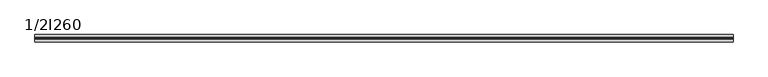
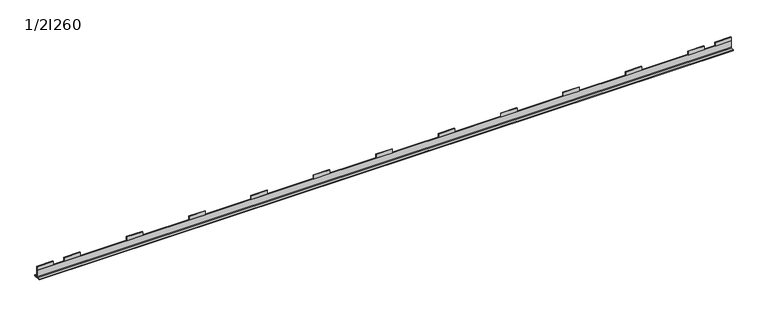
"""IFC4 building model written with IfcOpenShell, lengths in millimetres: beam geometry, Wzmocnienie do belek - dokładny podział : 1/2I260."""

from ifc_helpers import new_model, si_unit, point, frame, frame_2d, origin, place, context, project, spatial, polyline, circle_curve, trimmed, segment, composite_curve, outline, extrude, source, transform, mapped, element, save


def beam_1_2i260_edd09e0a(model_context):
    return source(origin(), model_context, "Body", "SweptSolid", [
        extrude(outline(polyline([(9141.0, -5.5), (9141.0, 5.5), (9391.0, 5.5), (9391.0, -5.5), (9141.0, -5.5)])), frame((0.0, 0.0, -60.0), z_axis=(0.0, 0.0, 1.0), x_axis=(1.0, 0.0, 0.0)), (0.0, 0.0, 1.0), 60.0),
        extrude(outline(polyline([(8172.0, -5.5), (8172.0, 5.5), (8422.0, 5.5), (8422.0, -5.5), (8172.0, -5.5)])), frame((0.0, 0.0, -60.0), z_axis=(0.0, 0.0, 1.0), x_axis=(1.0, 0.0, 0.0)), (0.0, 0.0, 1.0), 60.0),
        extrude(outline(polyline([(7203.0, -5.5), (7203.0, 5.5), (7453.0, 5.5), (7453.0, -5.5), (7203.0, -5.5)])), frame((0.0, 0.0, -60.0), z_axis=(0.0, 0.0, 1.0), x_axis=(1.0, 0.0, 0.0)), (0.0, 0.0, 1.0), 60.0),
        extrude(outline(polyline([(6234.0, -5.5), (6234.0, 5.5), (6484.0, 5.5), (6484.0, -5.5), (6234.0, -5.5)])), frame((0.0, 0.0, -60.0), z_axis=(0.0, 0.0, 1.0), x_axis=(1.0, 0.0, 0.0)), (0.0, 0.0, 1.0), 60.0),
        extrude(outline(polyline([(5265.0, -5.5), (5265.0, 5.5), (5515.0, 5.5), (5515.0, -5.5), (5265.0, -5.5)])), frame((0.0, 0.0, -60.0), z_axis=(0.0, 0.0, 1.0), x_axis=(1.0, 0.0, 0.0)), (0.0, 0.0, 1.0), 60.0),
        extrude(outline(polyline([(4296.0, -5.5), (4296.0, 5.5), (4546.0, 5.5), (4546.0, -5.5), (4296.0, -5.5)])), frame((0.0, 0.0, -60.0), z_axis=(0.0, 0.0, 1.0), x_axis=(1.0, 0.0, 0.0)), (0.0, 0.0, 1.0), 60.0),
        extrude(outline(polyline([(3327.0, -5.5), (3327.0, 5.5), (3577.0, 5.5), (3577.0, -5.5), (3327.0, -5.5)])), frame((0.0, 0.0, -60.0), z_axis=(0.0, 0.0, 1.0), x_axis=(1.0, 0.0, 0.0)), (0.0, 0.0, 1.0), 60.0),
        extrude(outline(polyline([(2358.0, -5.5), (2358.0, 5.5), (2608.0, 5.5), (2608.0, -5.5), (2358.0, -5.5)])), frame((0.0, 0.0, -60.0), z_axis=(0.0, 0.0, 1.0), x_axis=(1.0, 0.0, 0.0)), (0.0, 0.0, 1.0), 60.0),
        extrude(outline(polyline([(1389.0, -5.5), (1389.0, 5.5), (1639.0, 5.5), (1639.0, -5.5), (1389.0, -5.5)])), frame((0.0, 0.0, -60.0), z_axis=(0.0, 0.0, 1.0), x_axis=(1.0, 0.0, 0.0)), (0.0, 0.0, 1.0), 60.0),
        extrude(outline(polyline([(10110.0, -5.5), (10110.0, 5.5), (10360.0, 5.5), (10360.0, -5.5), (10110.0, -5.5)])), frame((0.0, 0.0, -60.0), z_axis=(0.0, 0.0, 1.0), x_axis=(1.0, 0.0, 0.0)), (0.0, 0.0, 1.0), 60.0),
        extrude(outline(polyline([(420.0, -5.5), (420.0, 5.5), (670.0, 5.5), (670.0, -5.5), (420.0, -5.5)])), frame((0.0, 0.0, -60.0), z_axis=(0.0, 0.0, 1.0), x_axis=(1.0, 0.0, 0.0)), (0.0, 0.0, 1.0), 60.0),
        extrude(outline(polyline([(10530.0, -5.5), (10530.0, 5.5), (10780.0, 5.5), (10780.0, -5.5), (10530.0, -5.5)])), frame((0.0, 0.0, -60.0), z_axis=(0.0, 0.0, 1.0), x_axis=(1.0, 0.0, 0.0)), (0.0, 0.0, 1.0), 60.0),
        extrude(outline(polyline([(0.0, -5.5), (0.0, 5.5), (250.0, 5.5), (250.0, -5.5), (0.0, -5.5)])), frame((0.0, 0.0, -60.0), z_axis=(0.0, 0.0, 1.0), x_axis=(1.0, 0.0, 0.0)), (0.0, 0.0, 1.0), 60.0),
        extrude(outline(composite_curve([segment(polyline([(56.5, -190.0), (-56.5, -190.0), (-56.5, -175.9), (-14.1, -175.9)]), True, "CONTINUOUS"), segment(trimmed(circle_curve(frame_2d((-14.1, -166.5)), 9.4), [point((-14.1, -175.9))], [point((-4.7, -166.5))], True, "CARTESIAN"), True, "CONTINUOUS"), segment(polyline([(-4.7, -166.5), (-4.7, -60.0), (4.7, -60.0), (4.7, -166.5)]), True, "CONTINUOUS"), segment(trimmed(circle_curve(frame_2d((14.1, -166.5)), 9.4), [point((4.7, -166.5))], [point((14.1, -175.9))], True, "CARTESIAN"), True, "CONTINUOUS"), segment(polyline([(14.1, -175.9), (56.5, -175.9), (56.5, -190.0)]), True, "CONTINUOUS")], self_intersect=False)), frame((0.0, 0.0, 0.0), z_axis=(1.0, 0.0, 0.0), x_axis=(0.0, 1.0, 0.0)), (0.0, 0.0, 1.0), 10780.0),
    ])


if __name__ == "__main__":
    model = new_model("IFC4")
    model_context = context("Model", 3, world=origin())
    ifc_project = project(units=[si_unit("LENGTHUNIT", "METRE", prefix="MILLI")], contexts=[model_context])
    site = spatial("IfcSite", under=ifc_project)
    building = spatial("IfcBuilding", under=site)
    placement = place(None, origin())
    beam_1_2i260_shape = beam_1_2i260_edd09e0a(model_context)
    element("IfcBeam", 1, ObjectType="Wzmocnienie do belek - dokładny podział : 1/2I260", at=placement, inside=building, context=model_context, shape_type="MappedRepresentation", body=[
        mapped(beam_1_2i260_shape, transform((0.0, 0.0, 0.0), x_axis=(1.0, 0.0, 0.0), y_axis=(0.0, 1.0, 0.0), z_axis=(0.0, 0.0, 1.0))),
    ])
    save(model, "model.ifc")
